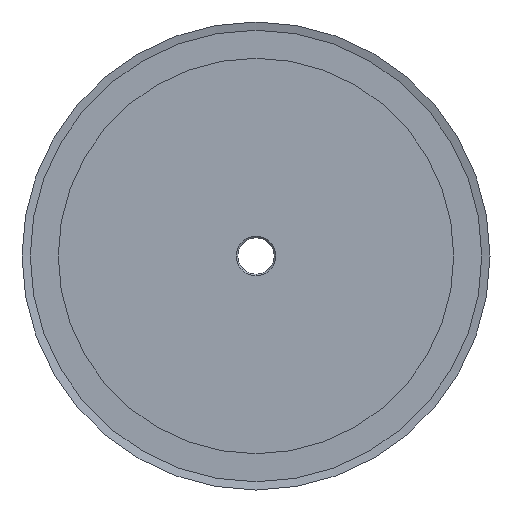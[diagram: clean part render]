
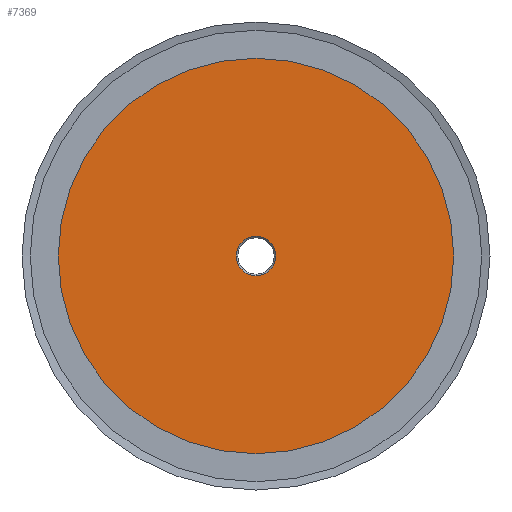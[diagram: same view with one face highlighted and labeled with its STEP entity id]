
A CAD part, left-side view. The second image highlights one B-rep face of the part: STEP entity #7369.
In plain terms, the highlighted planar face has unit normal (-1, 0, 0).
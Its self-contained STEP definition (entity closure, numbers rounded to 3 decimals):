
#38=FACE_BOUND('',#930,.T.);
#180=PLANE('',#8268);
#549=FACE_OUTER_BOUND('',#929,.T.);
#929=EDGE_LOOP('',(#6362));
#930=EDGE_LOOP('',(#6363));
#2686=CIRCLE('',#8267,6.);
#2687=CIRCLE('',#8269,60.);
#3426=VERTEX_POINT('',#12827);
#3427=VERTEX_POINT('',#12831);
#4527=EDGE_CURVE('',#3426,#3426,#2686,.T.);
#4528=EDGE_CURVE('',#3427,#3427,#2687,.T.);
#6362=ORIENTED_EDGE('',*,*,#4528,.F.);
#6363=ORIENTED_EDGE('',*,*,#4527,.T.);
#7369=ADVANCED_FACE('',(#549,#38),#180,.T.);
#8267=AXIS2_PLACEMENT_3D('',#12829,#10572,#10573);
#8268=AXIS2_PLACEMENT_3D('',#12830,#10574,#10575);
#8269=AXIS2_PLACEMENT_3D('',#12832,#10576,#10577);
#10572=DIRECTION('center_axis',(1.,0.,0.));
#10573=DIRECTION('ref_axis',(0.,0.,-1.));
#10574=DIRECTION('center_axis',(-1.,0.,0.));
#10575=DIRECTION('ref_axis',(0.,0.,1.));
#10576=DIRECTION('center_axis',(1.,0.,0.));
#10577=DIRECTION('ref_axis',(0.,0.,-1.));
#12827=CARTESIAN_POINT('',(0.,-6.,0.));
#12829=CARTESIAN_POINT('Origin',(0.,0.,0.));
#12830=CARTESIAN_POINT('Origin',(0.,60.,0.));
#12831=CARTESIAN_POINT('',(0.,-60.,0.));
#12832=CARTESIAN_POINT('Origin',(0.,0.,0.));
